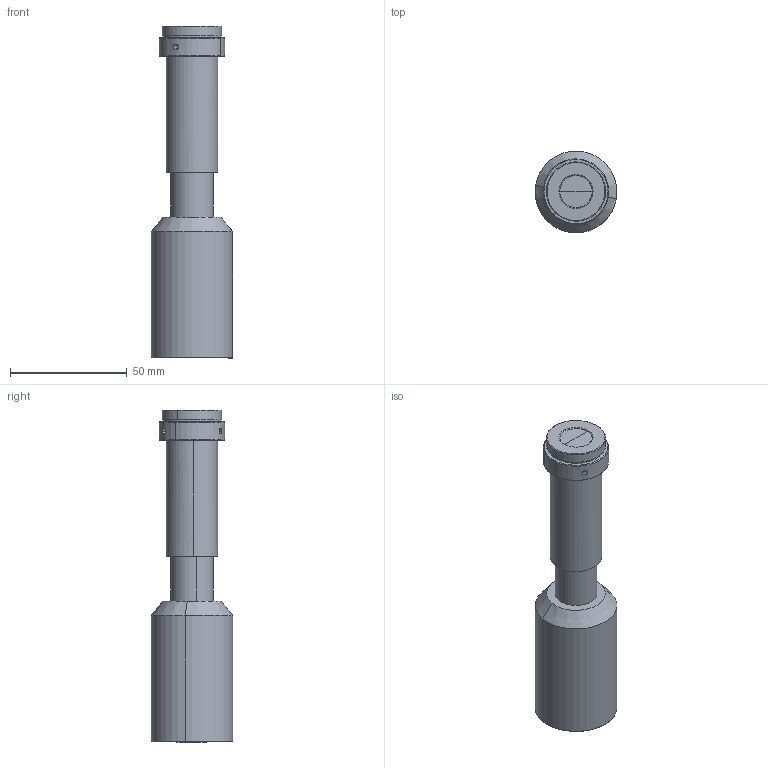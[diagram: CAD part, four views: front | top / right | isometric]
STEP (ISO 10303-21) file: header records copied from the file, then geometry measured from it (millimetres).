
FILE_DESCRIPTION (( 'STEP AP203' ), '1' );
FILE_NAME ('WWH05-110AT.STEP', '2023-11-07T07:21:15', ( '' ), ( '' ), 'SwSTEP 2.0', 'SolidWorks 2017', '' );
FILE_SCHEMA (( 'CONFIG_CONTROL_DESIGN' ));
Length unit declared in the file: millimetre
Products named in the file (1): WWH05-110AT
Bounding box: 35 x 35 x 142.1 mm (x, y, z)
Volume: 86745.1 mm3; surface area: 14671.8 mm2
Topology: 1 solids, 1 shells, 48 faces, 101 edges, 63 vertices
Faces by surface type: cylinder 24, cone 16, plane 8
Entity records: 1624 total; most frequent: CARTESIAN_POINT 519, DIRECTION 223, ORIENTED_EDGE 198, EDGE_CURVE 99, AXIS2_PLACEMENT_3D 93, VERTEX_POINT 63, EDGE_LOOP 58, ADVANCED_FACE 48
